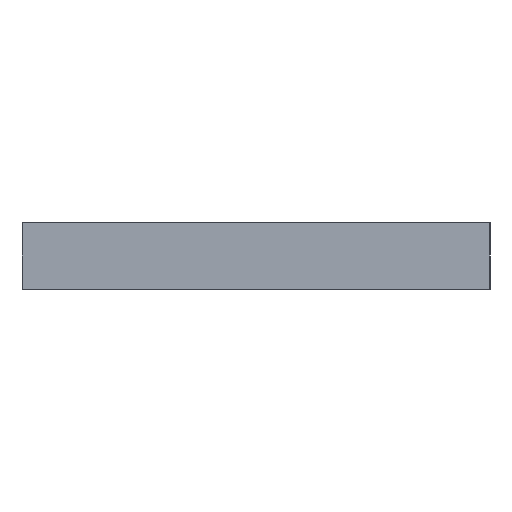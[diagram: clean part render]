
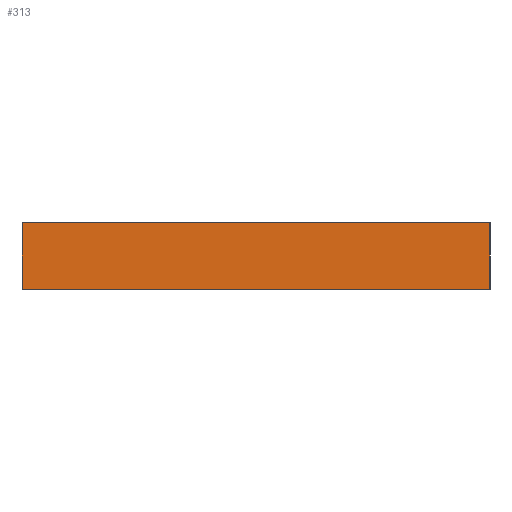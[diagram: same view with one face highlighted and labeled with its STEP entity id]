
A CAD part, left-side view. The second image highlights one B-rep face of the part: STEP entity #313.
In plain terms, the highlighted planar face has unit normal (-1, 0, 0).
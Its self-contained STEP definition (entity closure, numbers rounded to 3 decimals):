
#52 = CARTESIAN_POINT ( 'NONE',  ( 0., 0., 0. ) ) ;
#87 = DIRECTION ( 'NONE',  ( 1., 0., 0. ) ) ;
#109 = LINE ( 'NONE', #1225, #541 ) ;
#151 = AXIS2_PLACEMENT_3D ( 'NONE', #1249, #87, #1790 ) ;
#202 = EDGE_CURVE ( 'NONE', #1265, #1723, #1400, .T. ) ;
#259 = CARTESIAN_POINT ( 'NONE',  ( 0., -70., 10. ) ) ;
#289 = CARTESIAN_POINT ( 'NONE',  ( 0., 0., 10. ) ) ;
#313 = ADVANCED_FACE ( 'NONE', ( #475 ), #1578, .F. ) ;
#453 = DIRECTION ( 'NONE',  ( 0., -1., 0. ) ) ;
#465 = CARTESIAN_POINT ( 'NONE',  ( 0., 0., 10. ) ) ;
#474 = VECTOR ( 'NONE', #2253, 1000. ) ;
#475 = FACE_OUTER_BOUND ( 'NONE', #651, .T. ) ;
#541 = VECTOR ( 'NONE', #1039, 1000. ) ;
#629 = CARTESIAN_POINT ( 'NONE',  ( 0., -70., 0. ) ) ;
#651 = EDGE_LOOP ( 'NONE', ( #1092, #679, #919, #1943 ) ) ;
#679 = ORIENTED_EDGE ( 'NONE', *, *, #1642, .F. ) ;
#919 = ORIENTED_EDGE ( 'NONE', *, *, #202, .F. ) ;
#1039 = DIRECTION ( 'NONE',  ( 0., 0., -1. ) ) ;
#1092 = ORIENTED_EDGE ( 'NONE', *, *, #1328, .T. ) ;
#1103 = CARTESIAN_POINT ( 'NONE',  ( 0., -70., 10. ) ) ;
#1154 = LINE ( 'NONE', #1103, #474 ) ;
#1225 = CARTESIAN_POINT ( 'NONE',  ( 0., 0., 10. ) ) ;
#1249 = CARTESIAN_POINT ( 'NONE',  ( 0., 0., 10. ) ) ;
#1265 = VERTEX_POINT ( 'NONE', #289 ) ;
#1328 = EDGE_CURVE ( 'NONE', #1669, #1357, #1565, .T. ) ;
#1357 = VERTEX_POINT ( 'NONE', #629 ) ;
#1388 = VECTOR ( 'NONE', #453, 1000. ) ;
#1400 = LINE ( 'NONE', #465, #1388 ) ;
#1461 = EDGE_CURVE ( 'NONE', #1265, #1669, #109, .T. ) ;
#1565 = LINE ( 'NONE', #2111, #2383 ) ;
#1578 = PLANE ( 'NONE',  #151 ) ;
#1642 = EDGE_CURVE ( 'NONE', #1723, #1357, #1154, .T. ) ;
#1669 = VERTEX_POINT ( 'NONE', #52 ) ;
#1723 = VERTEX_POINT ( 'NONE', #259 ) ;
#1790 = DIRECTION ( 'NONE',  ( 0., 0., -1. ) ) ;
#1943 = ORIENTED_EDGE ( 'NONE', *, *, #1461, .T. ) ;
#2111 = CARTESIAN_POINT ( 'NONE',  ( 0., 0., 0. ) ) ;
#2253 = DIRECTION ( 'NONE',  ( 0., 0., -1. ) ) ;
#2316 = DIRECTION ( 'NONE',  ( 0., -1., 0. ) ) ;
#2383 = VECTOR ( 'NONE', #2316, 1000. ) ;
